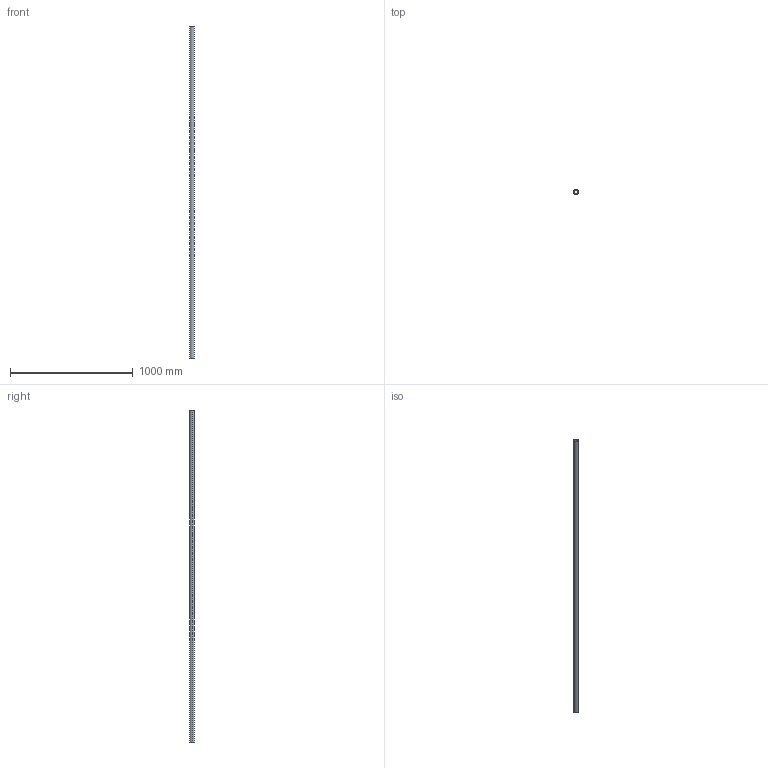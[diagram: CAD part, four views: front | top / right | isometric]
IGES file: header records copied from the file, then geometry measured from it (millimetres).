
Start section: SolidWorks IGES file using analytic representation for surfaces
Global section: file name: C:\Users\IanO\Desktop\L1771_v2\L1771.40_v2\L1771.40_v2_20230705_IGES\L1771.40-2700.igs; native system: SolidWorks 2019; preprocessor: SolidWorks 2019; author: IanO; date: 230705.161420; units: millimetre
Bounding box: 40 x 40 x 2700 mm (x, y, z)
Surface area: 578078.2 mm2 (no closed solid volume)
Topology: 0 solids, 0 shells, 6 faces, 272 edges, 272 vertices
Faces by surface type: revolution 4, bspline 2
